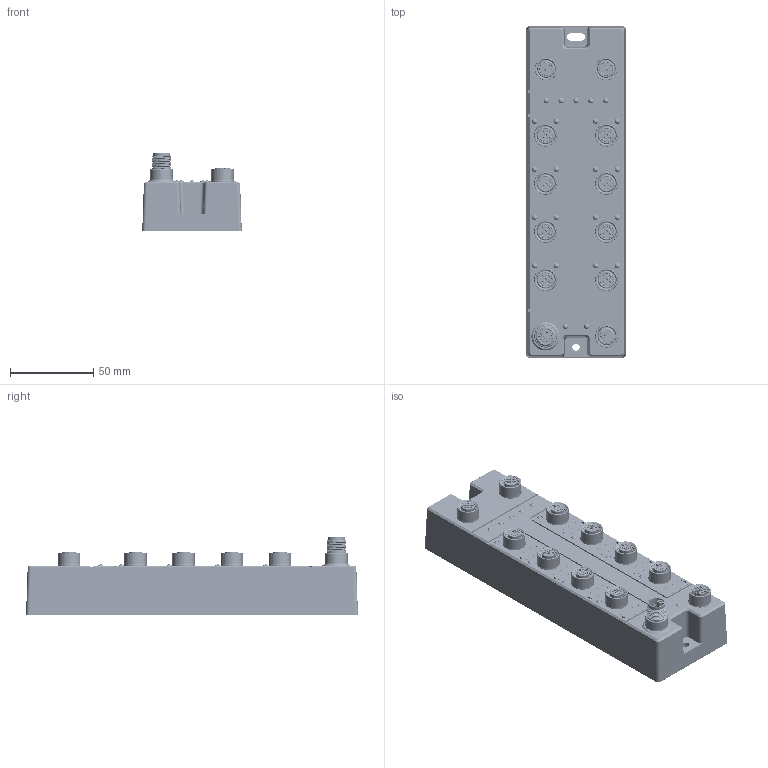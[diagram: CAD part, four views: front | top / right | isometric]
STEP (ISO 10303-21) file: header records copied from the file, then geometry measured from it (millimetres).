
FILE_DESCRIPTION((''),'2;1');
FILE_NAME('_ALL000_ASM_298_ASM_101_ASM','2024-04-01T15:08:24',('Administrator'),('yulong DESIGN'),'CREO PARAMETRIC BY PTC INC, 2021023','CREO PARAMETRIC BY PTC INC, 2021023','');
FILE_SCHEMA(('AUTOMOTIVE_DESIGN { 1 0 10303 214 1 1 1 1 }'));
Products named in the file (20): A000_1052_179; G1000106__1_1_1_A_165_101; 000_141_101; 000_137_103; PCB-1_8_117; PCB-2_8_115; _5_1_0001_101; _5_2_0001_101; M12D41110001_ASM_101_ASM; M12D04C-FPBRCU-0040001_ASM_101_ASM; _5_1__10001_101; _5_2__10001_101; M12D_10001_ASM_101_ASM; ASM0008_ASM_101_ASM; M12LE4C-FPBRCU-0020001_ASM_101; M12LE4C-MPBRCU-0020001_ASM_101; 7_5X1_5-1-SOLID1000_102; _90001_33; M12A5-0001_ASM_33_ASM; _ALL000_ASM_298_ASM_101_ASM
Assembly tree (55 placements, depth 4):
  _ALL000_ASM_298_ASM_101_ASM
    A000_1052_179
    G1000106__1_1_1_A_165_101
    000_141_101  x8
    000_137_103  x23
    PCB-1_8_117
    PCB-2_8_115
    M12D04C-FPBRCU-0040001_ASM_101_ASM
      M12D41110001_ASM_101_ASM
        _5_1_0001_101
        _5_2_0001_101
    ASM0008_ASM_101_ASM
      M12D_10001_ASM_101_ASM
        _5_1__10001_101
        _5_2__10001_101
    M12LE4C-FPBRCU-0020001_ASM_101
    M12LE4C-MPBRCU-0020001_ASM_101
    M12A5-0001_ASM_33_ASM  x8
      7_5X1_5-1-SOLID1000_102
      _90001_33
Bounding box: 59.99 x 199.99 x 47.5 mm (x, y, z)
Volume: 388100.7 mm3; surface area: 111819.9 mm2
Topology: 55 solids, 58 shells, 4165 faces, 10239 edges, 6594 vertices
Faces by surface type: plane 1647, cylinder 1444, cone 389, bspline 221, extrusion 207, torus 191, sphere 66
Entity records: 103572 total; most frequent: CARTESIAN_POINT 40742, DIRECTION 10429, ORIENTED_EDGE 9942, EDGE_CURVE 4971, AXIS2_PLACEMENT_3D 3958, VERTEX_POINT 3225, VECTOR 2513, PRESENTATION_STYLE_ASSIGNMENT 2506
